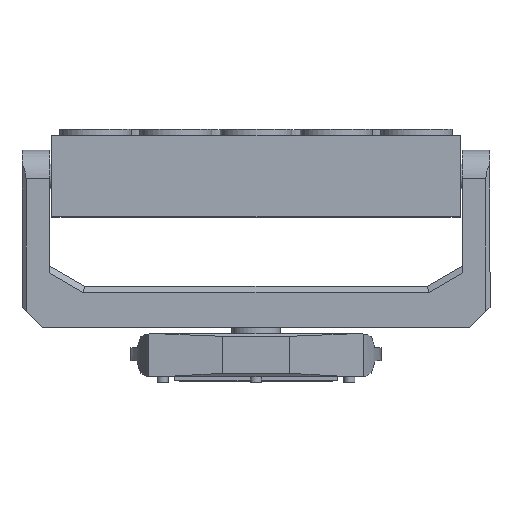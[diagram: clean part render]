
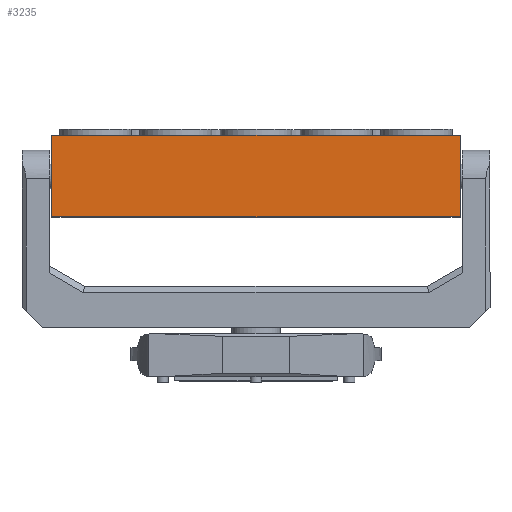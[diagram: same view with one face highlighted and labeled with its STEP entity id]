
A CAD part, top view. The second image highlights one B-rep face of the part: STEP entity #3235.
In plain terms, the highlighted planar face has unit normal (0, 0, 1) as drawn and (1, 0, 0) by its records, which use the part's own axes.
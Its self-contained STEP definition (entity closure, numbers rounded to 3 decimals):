
#256=ORIENTED_EDGE('',*,*,#904,.T.);
#257=ORIENTED_EDGE('',*,*,#884,.F.);
#258=ORIENTED_EDGE('',*,*,#905,.F.);
#259=ORIENTED_EDGE('',*,*,#898,.T.);
#884=EDGE_CURVE('',#1217,#1218,#1459,.T.);
#898=EDGE_CURVE('',#1226,#1225,#1472,.T.);
#904=EDGE_CURVE('',#1225,#1218,#1478,.T.);
#905=EDGE_CURVE('',#1226,#1217,#1479,.T.);
#1217=VERTEX_POINT('',#4347);
#1218=VERTEX_POINT('',#4349);
#1225=VERTEX_POINT('',#4375);
#1226=VERTEX_POINT('',#4377);
#1459=LINE('',#4348,#1703);
#1472=LINE('',#4376,#1716);
#1478=LINE('',#4387,#1722);
#1479=LINE('',#4388,#1723);
#1703=VECTOR('',#3649,1000.);
#1716=VECTOR('',#3676,1000.);
#1722=VECTOR('',#3688,1000.);
#1723=VECTOR('',#3689,1000.);
#1937=EDGE_LOOP('',(#256,#257,#258,#259));
#2121=FACE_BOUND('',#1937,.T.);
#2303=PLANE('',#3397);
#3235=ADVANCED_FACE('',(#2121),#2303,.F.);
#3397=AXIS2_PLACEMENT_3D('',#4386,#3686,#3687);
#3649=DIRECTION('',(0.,-1.,0.));
#3676=DIRECTION('',(0.,-1.,0.));
#3686=DIRECTION('',(-1.,0.,0.));
#3687=DIRECTION('',(0.,0.,1.));
#3688=DIRECTION('',(0.,0.,-1.));
#3689=DIRECTION('',(0.,0.,-1.));
#4347=CARTESIAN_POINT('',(597.,99.5,-502.5));
#4348=CARTESIAN_POINT('',(597.,-98.5,-502.5));
#4349=CARTESIAN_POINT('',(597.,-100.9,-502.5));
#4375=CARTESIAN_POINT('',(597.,-100.9,502.5));
#4376=CARTESIAN_POINT('',(597.,-98.5,502.5));
#4377=CARTESIAN_POINT('',(597.,99.5,502.5));
#4386=CARTESIAN_POINT('',(597.,-98.5,502.5));
#4387=CARTESIAN_POINT('',(597.,-100.9,502.5));
#4388=CARTESIAN_POINT('',(597.,99.5,502.5));
